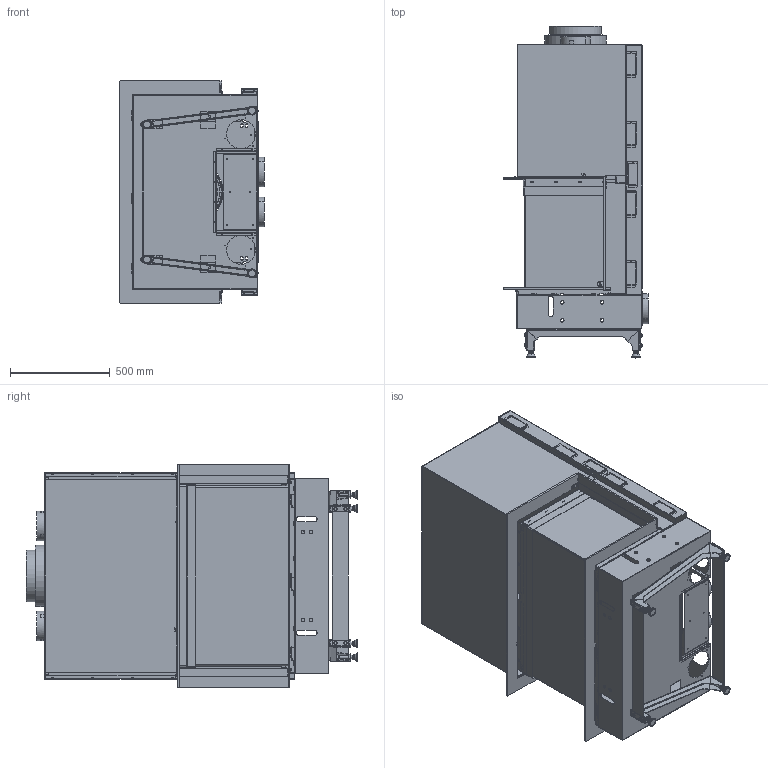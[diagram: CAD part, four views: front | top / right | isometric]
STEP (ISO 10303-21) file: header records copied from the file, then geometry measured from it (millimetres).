
FILE_DESCRIPTION (( 'STEP AP214' ), '1' );
FILE_NAME ('W90 47S 8mm Kader.STEP', '2020-06-17T05:12:41', ( '' ), ( '' ), 'SwSTEP 2.0', 'SolidWorks 2018', '' );
FILE_SCHEMA (( 'AUTOMOTIVE_DESIGN' ));
Length unit declared in the file: millimetre
Products named in the file (1): W90 47S 8mm Kader
Bounding box: 722.75 x 1662.5 x 1116 mm (x, y, z)
Volume: 16542028.1 mm3; surface area: 14537771 mm2
Topology: 95 solids, 95 shells, 4426 faces, 11384 edges, 7122 vertices
Faces by surface type: plane 2484, cylinder 1707, cone 152, bspline 83
Full cylindrical faces by diameter (mm): 256 x1, 260 x1, 282 x2, 286 x2, 300 x2, 304 x2, 306 x1, 310 x1
Entity records: 188771 total; most frequent: CARTESIAN_POINT 27969, DIRECTION 23308, ORIENTED_EDGE 22768, EDGE_CURVE 11384, AXIS2_PLACEMENT_3D 7942, VECTOR 7424, LINE 7424, VERTEX_POINT 7122
